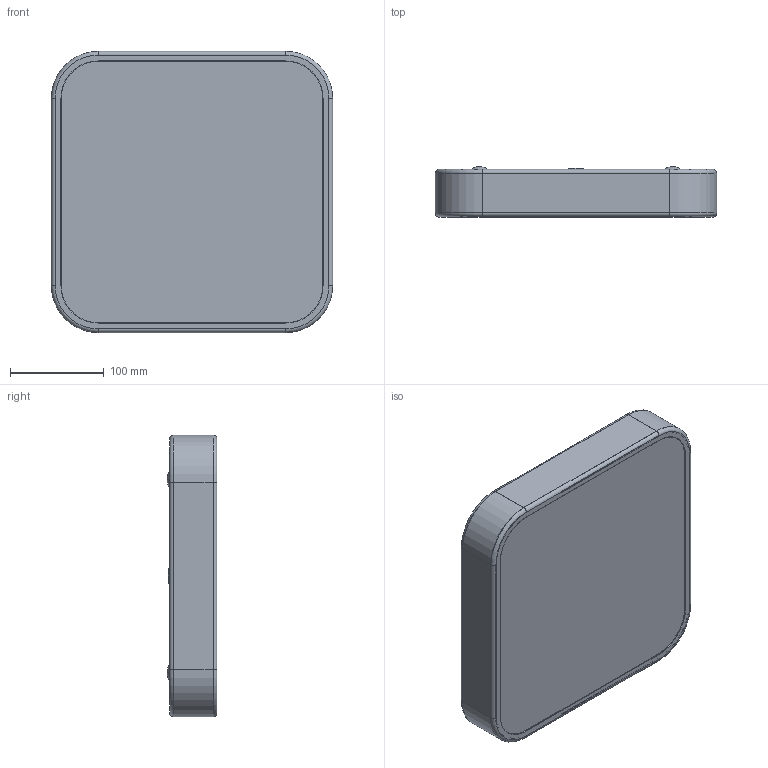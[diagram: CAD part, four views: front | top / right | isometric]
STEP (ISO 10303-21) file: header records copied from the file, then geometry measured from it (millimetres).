
FILE_DESCRIPTION((''),'2;1');
FILE_NAME('001_ASM','2026-03-17T16:58:58',('Administrator'),(''),'CREO PARAMETRIC BY PTC INC, 2021164','CREO PARAMETRIC BY PTC INC, 2021164','');
FILE_SCHEMA(('CONFIG_CONTROL_DESIGN','SHAPE_APPEARANCE_LAYERS_GROUPS'));
Length unit declared in the file: millimetre
Products named in the file (3): PRT0001_; PRT0002_; 001_ASM
Assembly tree (2 placements, depth 2):
  001_ASM
    PRT0001_
    PRT0002_
Bounding box: 300 x 53.18 x 300 mm (x, y, z)
Volume: 220037.8 mm3; surface area: 467438.1 mm2
Topology: 2 solids, 2 shells, 127 faces, 296 edges, 178 vertices
Faces by surface type: cylinder 56, plane 33, torus 30, sphere 8
Entity records: 5556 total; most frequent: DIRECTION 728, CARTESIAN_POINT 606, ORIENTED_EDGE 592, PRESENTATION_STYLE_ASSIGNMENT 425, STYLED_ITEM 425, AXIS2_PLACEMENT_3D 300, CURVE_STYLE 296, EDGE_CURVE 296
